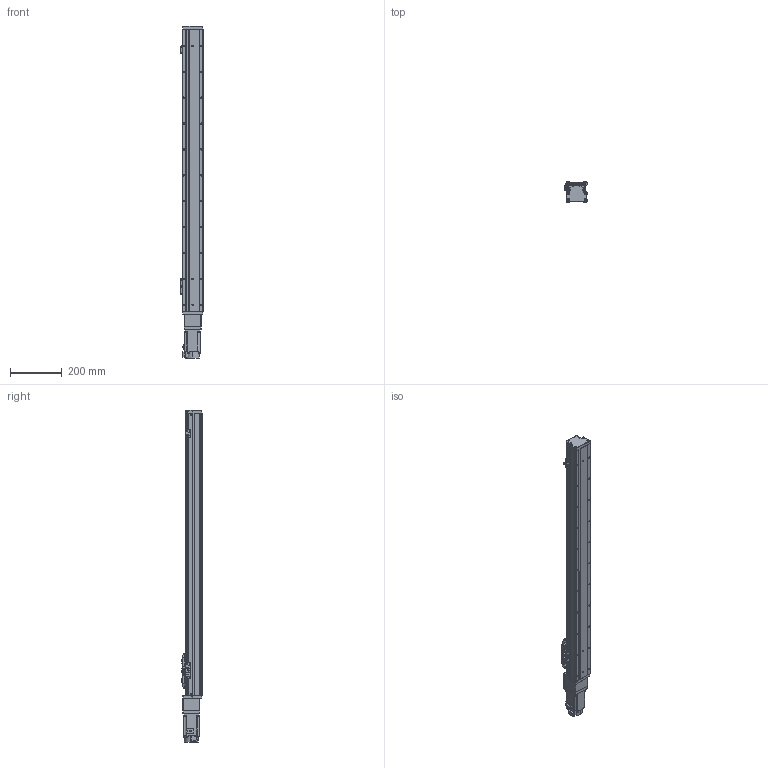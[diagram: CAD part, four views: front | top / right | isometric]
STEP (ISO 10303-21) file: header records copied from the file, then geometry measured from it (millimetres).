
FILE_DESCRIPTION (( 'STEP AP203' ), '1' );
FILE_NAME ('GTH8-900-BC-M20-C4.step', '2022-09-23T00:56:33', ( '微软用户' ), ( '微软中国' ), 'SwSTEP 2.0', 'SolidWorks 2020', '' );
FILE_SCHEMA (( 'CONFIG_CONTROL_DESIGN' ));
Length unit declared in the file: millimetre
Products named in the file (19): GTH80-001_900; GBT 70.1-M3℅6; CTHA86-006-1_CTHA86-006-2; GTH80-003; GBT 70.1-M4×16; CTHA86-013; GTH80-004; GTH80-028; CTHA86-027; GTH80-006; GTH50-024; hg-kn43j_-s100_; GTH80-013; GTH50-023; GTH8-900-BC-M20-C4; GBT 70.3-M3℅6; GBT96.1-2002 3×0.8; GTH80-022; BTH-M3X5X6
Assembly tree (60 placements, depth 2):
  GTH8-900-BC-M20-C4
    GTH80-001_900
    GTH80-003
    GTH80-004
    GTH80-006
    GTH80-013
    GBT 70.3-M3℅6  x6
    GTH80-022
    GBT 70.1-M3℅6  x14
    GBT 70.1-M4×16  x8
    GTH80-028  x2
    GTH50-024  x3
    GTH50-023  x3
    GBT96.1-2002 3×0.8  x6
    BTH-M3X5X6  x8
    CTHA86-006-1_CTHA86-006-2
    CTHA86-013
    CTHA86-027
    hg-kn43j_-s100_
Bounding box: 86.9 x 78 x 1282.7 mm (x, y, z)
Volume: 5527342.1 mm3; surface area: 548282.9 mm2
Topology: 62 solids, 62 shells, 2243 faces, 5164 edges, 3147 vertices
Faces by surface type: plane 1173, cylinder 613, cone 285, torus 162, sphere 8, bspline 2
Entity records: 39260 total; most frequent: CARTESIAN_POINT 6479, DIRECTION 6450, ORIENTED_EDGE 5918, EDGE_CURVE 2959, AXIS2_PLACEMENT_3D 2260, LINE 1930, VECTOR 1930, VERTEX_POINT 1860
